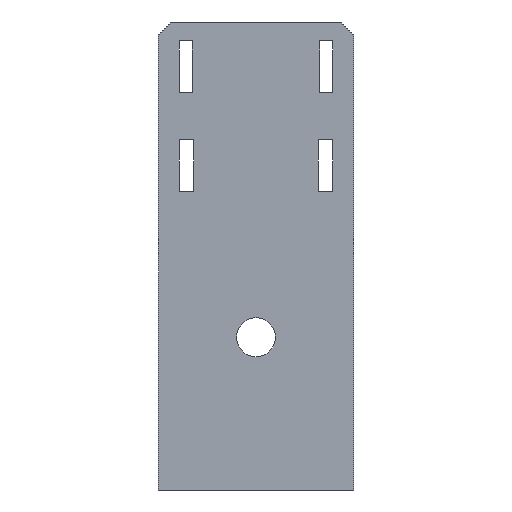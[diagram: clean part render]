
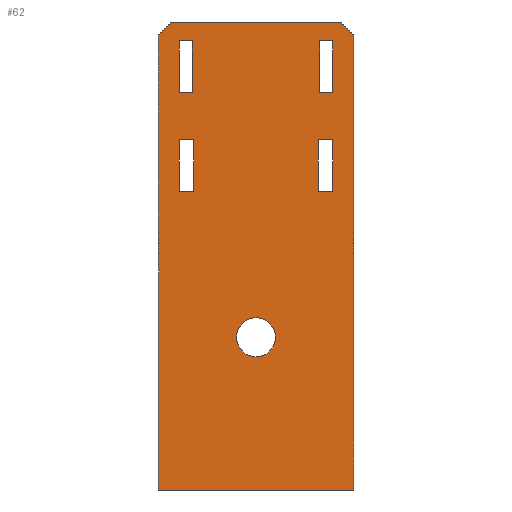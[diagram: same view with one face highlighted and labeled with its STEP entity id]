
A CAD part, front view. The second image highlights one B-rep face of the part: STEP entity #62.
In plain terms, the highlighted planar face has unit normal (0, -1, 0).
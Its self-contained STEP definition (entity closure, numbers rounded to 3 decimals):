
#62=ADVANCED_FACE('',(#295,#297,#299,#301,#303,#305),#307,.T.);
#295=FACE_BOUND('',#296,.T.);
#296=EDGE_LOOP('',(#498,#499,#500,#501,#502,#503));
#297=FACE_BOUND('',#298,.T.);
#298=EDGE_LOOP('',(#504));
#299=FACE_BOUND('',#300,.T.);
#300=EDGE_LOOP('',(#505,#506,#507,#508));
#301=FACE_BOUND('',#302,.T.);
#302=EDGE_LOOP('',(#509,#510,#511,#512));
#303=FACE_BOUND('',#304,.T.);
#304=EDGE_LOOP('',(#513,#514,#515,#516));
#305=FACE_BOUND('',#306,.T.);
#306=EDGE_LOOP('',(#517,#518,#519,#520));
#307=PLANE('',#308);
#308=AXIS2_PLACEMENT_3D('',#309,#310,#311);
#309=CARTESIAN_POINT('',(-15.,0.,0.));
#310=DIRECTION('',(0.,-1.,0.));
#311=DIRECTION('',(1.,0.,0.));
#498=ORIENTED_EDGE('',*,*,#634,.F.);
#499=ORIENTED_EDGE('',*,*,#635,.F.);
#500=ORIENTED_EDGE('',*,*,#636,.F.);
#501=ORIENTED_EDGE('',*,*,#637,.F.);
#502=ORIENTED_EDGE('',*,*,#638,.T.);
#503=ORIENTED_EDGE('',*,*,#639,.T.);
#504=ORIENTED_EDGE('',*,*,#640,.T.);
#505=ORIENTED_EDGE('',*,*,#641,.T.);
#506=ORIENTED_EDGE('',*,*,#642,.T.);
#507=ORIENTED_EDGE('',*,*,#643,.T.);
#508=ORIENTED_EDGE('',*,*,#644,.T.);
#509=ORIENTED_EDGE('',*,*,#645,.T.);
#510=ORIENTED_EDGE('',*,*,#646,.T.);
#511=ORIENTED_EDGE('',*,*,#647,.T.);
#512=ORIENTED_EDGE('',*,*,#648,.T.);
#513=ORIENTED_EDGE('',*,*,#649,.T.);
#514=ORIENTED_EDGE('',*,*,#650,.T.);
#515=ORIENTED_EDGE('',*,*,#651,.T.);
#516=ORIENTED_EDGE('',*,*,#652,.T.);
#517=ORIENTED_EDGE('',*,*,#653,.T.);
#518=ORIENTED_EDGE('',*,*,#654,.T.);
#519=ORIENTED_EDGE('',*,*,#655,.T.);
#520=ORIENTED_EDGE('',*,*,#656,.T.);
#634=EDGE_CURVE('',#725,#726,#727,.F.);
#635=EDGE_CURVE('',#728,#725,#729,.T.);
#636=EDGE_CURVE('',#730,#728,#731,.F.);
#637=EDGE_CURVE('',#732,#730,#733,.T.);
#638=EDGE_CURVE('',#732,#734,#735,.T.);
#639=EDGE_CURVE('',#734,#726,#736,.T.);
#640=EDGE_CURVE('',#737,#737,#738,.T.);
#641=EDGE_CURVE('',#739,#740,#741,.F.);
#642=EDGE_CURVE('',#740,#742,#743,.F.);
#643=EDGE_CURVE('',#742,#744,#745,.F.);
#644=EDGE_CURVE('',#744,#739,#746,.F.);
#645=EDGE_CURVE('',#747,#748,#749,.F.);
#646=EDGE_CURVE('',#748,#750,#751,.F.);
#647=EDGE_CURVE('',#750,#752,#753,.F.);
#648=EDGE_CURVE('',#752,#747,#754,.F.);
#649=EDGE_CURVE('',#755,#756,#757,.F.);
#650=EDGE_CURVE('',#756,#758,#759,.F.);
#651=EDGE_CURVE('',#758,#760,#761,.F.);
#652=EDGE_CURVE('',#760,#755,#762,.F.);
#653=EDGE_CURVE('',#763,#764,#765,.F.);
#654=EDGE_CURVE('',#764,#766,#767,.F.);
#655=EDGE_CURVE('',#766,#768,#769,.F.);
#656=EDGE_CURVE('',#768,#763,#770,.F.);
#725=VERTEX_POINT('',#886);
#726=VERTEX_POINT('',#887);
#727=LINE('',#888,#889);
#728=VERTEX_POINT('',#891);
#729=LINE('',#892,#893);
#730=VERTEX_POINT('',#895);
#731=LINE('',#896,#897);
#732=VERTEX_POINT('',#899);
#733=LINE('',#900,#901);
#734=VERTEX_POINT('',#903);
#735=LINE('',#904,#905);
#736=LINE('',#907,#908);
#737=VERTEX_POINT('',#910);
#738=CIRCLE('',#911,1.5);
#739=VERTEX_POINT('',#915);
#740=VERTEX_POINT('',#916);
#741=LINE('',#917,#918);
#742=VERTEX_POINT('',#920);
#743=LINE('',#921,#922);
#744=VERTEX_POINT('',#924);
#745=LINE('',#925,#926);
#746=LINE('',#928,#929);
#747=VERTEX_POINT('',#931);
#748=VERTEX_POINT('',#932);
#749=LINE('',#933,#934);
#750=VERTEX_POINT('',#936);
#751=LINE('',#937,#938);
#752=VERTEX_POINT('',#940);
#753=LINE('',#941,#942);
#754=LINE('',#944,#945);
#755=VERTEX_POINT('',#947);
#756=VERTEX_POINT('',#948);
#757=LINE('',#949,#950);
#758=VERTEX_POINT('',#952);
#759=LINE('',#953,#954);
#760=VERTEX_POINT('',#956);
#761=LINE('',#957,#958);
#762=LINE('',#960,#961);
#763=VERTEX_POINT('',#963);
#764=VERTEX_POINT('',#964);
#765=LINE('',#965,#966);
#766=VERTEX_POINT('',#968);
#767=LINE('',#969,#970);
#768=VERTEX_POINT('',#972);
#769=LINE('',#973,#974);
#770=LINE('',#976,#977);
#886=CARTESIAN_POINT('',(-1.,0.,36.));
#887=CARTESIAN_POINT('',(0.,0.,35.));
#888=CARTESIAN_POINT('',(0.,0.,35.));
#889=VECTOR('',#890,1.);
#890=DIRECTION('',(-0.707,0.,0.707));
#891=CARTESIAN_POINT('',(-14.,0.,36.));
#892=CARTESIAN_POINT('',(-14.,0.,36.));
#893=VECTOR('',#894,1.);
#894=DIRECTION('',(1.,0.,0.));
#895=CARTESIAN_POINT('',(-15.,0.,35.));
#896=CARTESIAN_POINT('',(-14.,0.,36.));
#897=VECTOR('',#898,1.);
#898=DIRECTION('',(-0.707,0.,-0.707));
#899=CARTESIAN_POINT('',(-15.,0.,0.));
#900=CARTESIAN_POINT('',(-15.,0.,0.));
#901=VECTOR('',#902,1.);
#902=DIRECTION('',(0.,0.,1.));
#903=CARTESIAN_POINT('',(0.,0.,0.));
#904=CARTESIAN_POINT('',(-15.,0.,0.));
#905=VECTOR('',#906,1.);
#906=DIRECTION('',(1.,0.,0.));
#907=CARTESIAN_POINT('',(0.,0.,0.));
#908=VECTOR('',#909,1.);
#909=DIRECTION('',(0.,0.,1.));
#910=CARTESIAN_POINT('',(-9.,0.,11.75));
#911=AXIS2_PLACEMENT_3D('',#912,#913,#914);
#912=CARTESIAN_POINT('',(-7.5,0.,11.75));
#913=DIRECTION('',(0.,1.,0.));
#914=DIRECTION('',(-1.,0.,0.));
#915=CARTESIAN_POINT('',(-1.584,0.,22.971));
#916=CARTESIAN_POINT('',(-2.714,0.,22.971));
#917=CARTESIAN_POINT('',(-2.714,0.,22.971));
#918=VECTOR('',#919,1.);
#919=DIRECTION('',(1.,0.,0.));
#920=CARTESIAN_POINT('',(-2.714,0.,26.943));
#921=CARTESIAN_POINT('',(-2.714,0.,26.943));
#922=VECTOR('',#923,1.);
#923=DIRECTION('',(0.,0.,-1.));
#924=CARTESIAN_POINT('',(-1.584,0.,26.943));
#925=CARTESIAN_POINT('',(-1.584,0.,26.943));
#926=VECTOR('',#927,1.);
#927=DIRECTION('',(-1.,0.,0.));
#928=CARTESIAN_POINT('',(-1.584,0.,22.971));
#929=VECTOR('',#930,1.);
#930=DIRECTION('',(0.,0.,1.));
#931=CARTESIAN_POINT('',(-13.416,0.,22.971));
#932=CARTESIAN_POINT('',(-13.416,0.,26.943));
#933=CARTESIAN_POINT('',(-13.416,0.,26.943));
#934=VECTOR('',#935,1.);
#935=DIRECTION('',(0.,0.,-1.));
#936=CARTESIAN_POINT('',(-12.286,0.,26.943));
#937=CARTESIAN_POINT('',(-12.286,0.,26.943));
#938=VECTOR('',#939,1.);
#939=DIRECTION('',(-1.,0.,0.));
#940=CARTESIAN_POINT('',(-12.286,0.,22.971));
#941=CARTESIAN_POINT('',(-12.286,0.,22.971));
#942=VECTOR('',#943,1.);
#943=DIRECTION('',(0.,0.,1.));
#944=CARTESIAN_POINT('',(-13.416,0.,22.971));
#945=VECTOR('',#946,1.);
#946=DIRECTION('',(1.,0.,0.));
#947=CARTESIAN_POINT('',(-2.584,0.,30.551));
#948=CARTESIAN_POINT('',(-2.584,0.,34.551));
#949=CARTESIAN_POINT('',(-2.584,0.,34.551));
#950=VECTOR('',#951,1.);
#951=DIRECTION('',(0.,0.,-1.));
#952=CARTESIAN_POINT('',(-1.584,0.,34.551));
#953=CARTESIAN_POINT('',(-1.584,0.,34.551));
#954=VECTOR('',#955,1.);
#955=DIRECTION('',(-1.,0.,0.));
#956=CARTESIAN_POINT('',(-1.584,0.,30.551));
#957=CARTESIAN_POINT('',(-1.584,0.,30.551));
#958=VECTOR('',#959,1.);
#959=DIRECTION('',(0.,0.,1.));
#960=CARTESIAN_POINT('',(-2.584,0.,30.551));
#961=VECTOR('',#962,1.);
#962=DIRECTION('',(1.,0.,0.));
#963=CARTESIAN_POINT('',(-13.416,0.,30.551));
#964=CARTESIAN_POINT('',(-13.416,0.,34.551));
#965=CARTESIAN_POINT('',(-13.416,0.,34.551));
#966=VECTOR('',#967,1.);
#967=DIRECTION('',(0.,0.,-1.));
#968=CARTESIAN_POINT('',(-12.416,0.,34.551));
#969=CARTESIAN_POINT('',(-12.416,0.,34.551));
#970=VECTOR('',#971,1.);
#971=DIRECTION('',(-1.,0.,0.));
#972=CARTESIAN_POINT('',(-12.416,0.,30.551));
#973=CARTESIAN_POINT('',(-12.416,0.,30.551));
#974=VECTOR('',#975,1.);
#975=DIRECTION('',(0.,0.,1.));
#976=CARTESIAN_POINT('',(-13.416,0.,30.551));
#977=VECTOR('',#978,1.);
#978=DIRECTION('',(1.,0.,0.));
